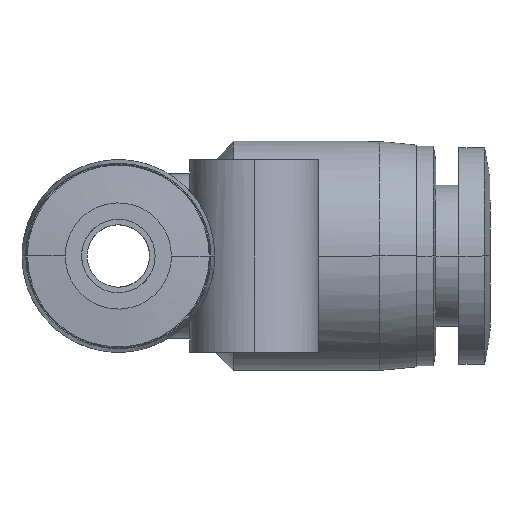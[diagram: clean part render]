
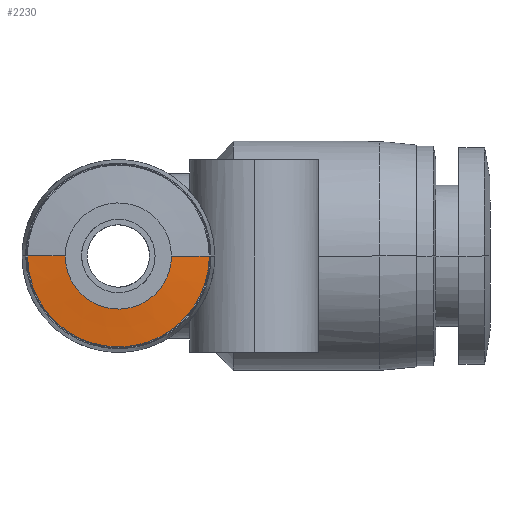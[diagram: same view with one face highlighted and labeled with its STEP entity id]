
A CAD part, left-side view. The second image highlights one B-rep face of the part: STEP entity #2230.
In plain terms, the highlighted conical face has half-angle 85 degrees and reference radius 3.921 mm.
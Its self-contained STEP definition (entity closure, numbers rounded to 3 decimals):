
#35 = CARTESIAN_POINT ( 'NONE',  ( -18.57, 3.958, -3.042 ) ) ;
#57 = DIRECTION ( 'NONE',  ( 0.087, -0.996, 0. ) ) ;
#144 = EDGE_CURVE ( 'NONE', #1492, #1413, #3047, .T. ) ;
#292 = CARTESIAN_POINT ( 'NONE',  ( -18.75, -2.893, -0.383 ) ) ;
#406 = CARTESIAN_POINT ( 'NONE',  ( -18.75, 2.893, 0. ) ) ;
#428 = CARTESIAN_POINT ( 'NONE',  ( -18.57, 3.042, -3.958 ) ) ;
#453 = CARTESIAN_POINT ( 'NONE',  ( -18.57, -4.325, -2.493 ) ) ;
#493 = CONICAL_SURFACE ( 'NONE', #1587, 3.921, 1.484 ) ;
#681 = DIRECTION ( 'NONE',  ( 0., 1., 0. ) ) ;
#709 = VERTEX_POINT ( 'NONE', #406 ) ;
#724 = CARTESIAN_POINT ( 'NONE',  ( -18.57, 4.821, -1.296 ) ) ;
#736 = CARTESIAN_POINT ( 'NONE',  ( -18.75, -1.461, -2.526 ) ) ;
#750 = CARTESIAN_POINT ( 'NONE',  ( -18.57, 1.296, -4.821 ) ) ;
#759 = CARTESIAN_POINT ( 'NONE',  ( -18.75, -1.774, -2.316 ) ) ;
#1015 = CARTESIAN_POINT ( 'NONE',  ( -18.75, -0.753, -2.819 ) ) ;
#1067 = FACE_OUTER_BOUND ( 'NONE', #2242, .T. ) ;
#1413 = VERTEX_POINT ( 'NONE', #4071 ) ;
#1435 = CARTESIAN_POINT ( 'NONE',  ( -18.66, 3.921, 0. ) ) ;
#1473 = CARTESIAN_POINT ( 'NONE',  ( -18.75, -2.819, -0.753 ) ) ;
#1492 = VERTEX_POINT ( 'NONE', #4734 ) ;
#1506 = CARTESIAN_POINT ( 'NONE',  ( -18.57, -4.95, 0. ) ) ;
#1515 = CARTESIAN_POINT ( 'NONE',  ( -18.75, 2.819, -0.753 ) ) ;
#1528 = CARTESIAN_POINT ( 'NONE',  ( -18.57, 2.493, -4.325 ) ) ;
#1547 = CARTESIAN_POINT ( 'NONE',  ( -18.66, -3.921, 0. ) ) ;
#1587 = AXIS2_PLACEMENT_3D ( 'NONE', #4042, #2567, #681 ) ;
#1699 = ORIENTED_EDGE ( 'NONE', *, *, #144, .F. ) ;
#1806 = LINE ( 'NONE', #1435, #2830 ) ;
#1835 = CARTESIAN_POINT ( 'NONE',  ( -18.75, 1.461, -2.526 ) ) ;
#1865 = ORIENTED_EDGE ( 'NONE', *, *, #2305, .T. ) ;
#1946 = VECTOR ( 'NONE', #57, 1000. ) ;
#1947 = EDGE_CURVE ( 'NONE', #2841, #1413, #3137, .T. ) ;
#2230 = ADVANCED_FACE ( 'NONE', ( #1067 ), #493, .T. ) ;
#2242 = EDGE_LOOP ( 'NONE', ( #1699, #3787, #1865, #3033 ) ) ;
#2253 = CARTESIAN_POINT ( 'NONE',  ( -18.75, 2.316, -1.774 ) ) ;
#2265 = CARTESIAN_POINT ( 'NONE',  ( -18.57, -4.95, -0.648 ) ) ;
#2305 = EDGE_CURVE ( 'NONE', #709, #2841, #1806, .T. ) ;
#2309 = CARTESIAN_POINT ( 'NONE',  ( -18.57, 4.95, 0. ) ) ;
#2516 = CARTESIAN_POINT ( 'NONE',  ( -18.75, -2.893, 0. ) ) ;
#2545 = CARTESIAN_POINT ( 'NONE',  ( -18.75, 0.753, -2.819 ) ) ;
#2567 = DIRECTION ( 'NONE',  ( 1., 0., 0. ) ) ;
#2608 = CARTESIAN_POINT ( 'NONE',  ( -18.57, 4.325, -2.493 ) ) ;
#2678 = CARTESIAN_POINT ( 'NONE',  ( -18.57, -2.493, -4.325 ) ) ;
#2747 = CARTESIAN_POINT ( 'NONE',  ( -18.57, 4.95, 0. ) ) ;
#2830 = VECTOR ( 'NONE', #2926, 1000. ) ;
#2841 = VERTEX_POINT ( 'NONE', #2747 ) ;
#2906 = CARTESIAN_POINT ( 'NONE',  ( -18.75, -2.316, -1.774 ) ) ;
#2926 = DIRECTION ( 'NONE',  ( 0.087, 0.996, 0. ) ) ;
#2940 = EDGE_CURVE ( 'NONE', #709, #1492, #4704, .T. ) ;
#2986 = CARTESIAN_POINT ( 'NONE',  ( -18.75, 2.893, 0. ) ) ;
#3000 = CARTESIAN_POINT ( 'NONE',  ( -18.57, -3.042, -3.958 ) ) ;
#3011 = CARTESIAN_POINT ( 'NONE',  ( -18.75, 1.774, -2.316 ) ) ;
#3033 = ORIENTED_EDGE ( 'NONE', *, *, #1947, .T. ) ;
#3047 = LINE ( 'NONE', #1547, #1946 ) ;
#3072 = CARTESIAN_POINT ( 'NONE',  ( -18.57, -1.296, -4.821 ) ) ;
#3137 = B_SPLINE_CURVE_WITH_KNOTS ( 'NONE', 3,
 ( #2309, #3396, #724, #2608, #35, #428, #1528, #750, #4157, #4180, #3072, #2678, #3000, #4113, #453, #3419, #2265, #1506 ),
 .UNSPECIFIED., .F., .F.,
 ( 4, 2, 2, 2, 2, 2, 2, 2, 4 ),
 ( 0., 0.063, 0.125, 0.188, 0.25, 0.313, 0.375, 0.438, 0.5 ),
 .UNSPECIFIED. ) ;
#3283 = CARTESIAN_POINT ( 'NONE',  ( -18.75, -2.526, -1.461 ) ) ;
#3396 = CARTESIAN_POINT ( 'NONE',  ( -18.57, 4.95, -0.648 ) ) ;
#3419 = CARTESIAN_POINT ( 'NONE',  ( -18.57, -4.821, -1.296 ) ) ;
#3649 = CARTESIAN_POINT ( 'NONE',  ( -18.75, 0.383, -2.893 ) ) ;
#3679 = CARTESIAN_POINT ( 'NONE',  ( -18.75, 2.526, -1.461 ) ) ;
#3787 = ORIENTED_EDGE ( 'NONE', *, *, #2940, .F. ) ;
#4042 = CARTESIAN_POINT ( 'NONE',  ( -18.66, 0., 0. ) ) ;
#4071 = CARTESIAN_POINT ( 'NONE',  ( -18.57, -4.95, 0. ) ) ;
#4113 = CARTESIAN_POINT ( 'NONE',  ( -18.57, -3.958, -3.042 ) ) ;
#4124 = CARTESIAN_POINT ( 'NONE',  ( -18.75, 2.893, -0.383 ) ) ;
#4157 = CARTESIAN_POINT ( 'NONE',  ( -18.57, 0.648, -4.95 ) ) ;
#4180 = CARTESIAN_POINT ( 'NONE',  ( -18.57, -0.648, -4.95 ) ) ;
#4704 = B_SPLINE_CURVE_WITH_KNOTS ( 'NONE', 3,
 ( #2986, #4124, #1515, #3679, #2253, #3011, #1835, #2545, #3649, #4801, #1015, #736, #759, #2906, #3283, #1473, #292, #2516 ),
 .UNSPECIFIED., .F., .F.,
 ( 4, 2, 2, 2, 2, 2, 2, 2, 4 ),
 ( 0., 0.063, 0.125, 0.188, 0.25, 0.313, 0.375, 0.438, 0.5 ),
 .UNSPECIFIED. ) ;
#4734 = CARTESIAN_POINT ( 'NONE',  ( -18.75, -2.893, 0. ) ) ;
#4801 = CARTESIAN_POINT ( 'NONE',  ( -18.75, -0.383, -2.893 ) ) ;
